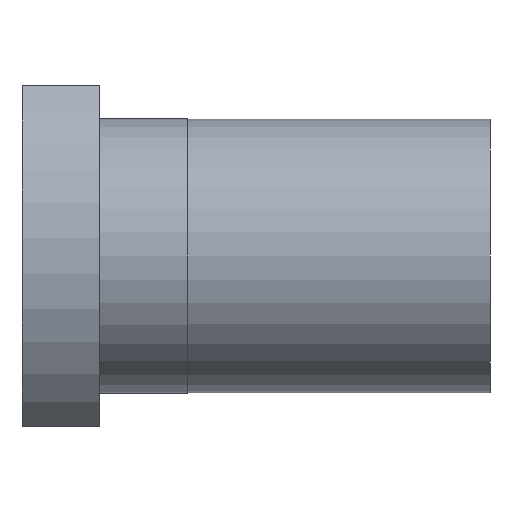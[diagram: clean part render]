
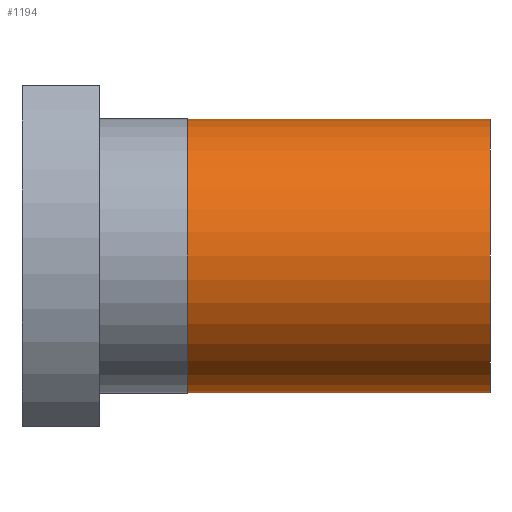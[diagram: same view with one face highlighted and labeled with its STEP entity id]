
A CAD part, front view. The second image highlights one B-rep face of the part: STEP entity #1194.
In plain terms, the highlighted cylindrical face has radius 24.875 mm (diameter 49.75 mm), a partial arc.
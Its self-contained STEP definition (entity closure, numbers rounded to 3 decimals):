
#451 = CARTESIAN_POINT ( 'NONE',  ( 30., 0., -24.875 ) ) ;
#476 = CIRCLE ( 'NONE', #477, 24.875 ) ;
#477 = AXIS2_PLACEMENT_3D ( 'NONE', #478, #479, #480 ) ;
#478 = CARTESIAN_POINT ( 'NONE',  ( 85., 0., 0. ) ) ;
#479 = DIRECTION ( 'NONE',  ( -1., 0., 0. ) ) ;
#480 = DIRECTION ( 'NONE',  ( 0., 0., 1. ) ) ;
#499 = FACE_OUTER_BOUND ( 'NONE', #1164, .T. ) ;
#500 = CYLINDRICAL_SURFACE ( 'NONE', #501, 24.875 ) ;
#501 = AXIS2_PLACEMENT_3D ( 'NONE', #502, #503, #504 ) ;
#502 = CARTESIAN_POINT ( 'NONE',  ( 0., 0., 0. ) ) ;
#503 = DIRECTION ( 'NONE',  ( -1., 0., 0. ) ) ;
#504 = DIRECTION ( 'NONE',  ( 0., 0., 1. ) ) ;
#539 = VERTEX_POINT ( 'NONE', #1511 ) ;
#579 = LINE ( 'NONE', #580, #581 ) ;
#580 = CARTESIAN_POINT ( 'NONE',  ( 0., 0., -24.875 ) ) ;
#581 = VECTOR ( 'NONE', #582, 1000. ) ;
#582 = DIRECTION ( 'NONE',  ( -1., 0., 0. ) ) ;
#612 = LINE ( 'NONE', #613, #614 ) ;
#613 = CARTESIAN_POINT ( 'NONE',  ( 0., 0., 24.875 ) ) ;
#614 = VECTOR ( 'NONE', #615, 1000. ) ;
#615 = DIRECTION ( 'NONE',  ( -1., 0., 0. ) ) ;
#671 = CIRCLE ( 'NONE', #672, 24.875 ) ;
#672 = AXIS2_PLACEMENT_3D ( 'NONE', #673, #674, #675 ) ;
#673 = CARTESIAN_POINT ( 'NONE',  ( 30., 0., 0. ) ) ;
#674 = DIRECTION ( 'NONE',  ( -1., 0., 0. ) ) ;
#675 = DIRECTION ( 'NONE',  ( 0., 0., 1. ) ) ;
#881 = VERTEX_POINT ( 'NONE', #451 ) ;
#904 = EDGE_CURVE ( 'NONE', #1040, #881, #579, .T. ) ;
#1040 = VERTEX_POINT ( 'NONE', #1505 ) ;
#1050 = ORIENTED_EDGE ( 'NONE', *, *, #1379, .F. ) ;
#1051 = ORIENTED_EDGE ( 'NONE', *, *, #1185, .T. ) ;
#1067 = VERTEX_POINT ( 'NONE', #1596 ) ;
#1100 = ORIENTED_EDGE ( 'NONE', *, *, #904, .F. ) ;
#1113 = ORIENTED_EDGE ( 'NONE', *, *, #1217, .T. ) ;
#1164 = EDGE_LOOP ( 'NONE', ( #1100, #1051, #1113, #1050 ) ) ;
#1185 = EDGE_CURVE ( 'NONE', #1040, #1067, #476, .T. ) ;
#1194 = ADVANCED_FACE ( 'NONE', ( #499 ), #500, .T. ) ;
#1217 = EDGE_CURVE ( 'NONE', #1067, #539, #612, .T. ) ;
#1379 = EDGE_CURVE ( 'NONE', #881, #539, #671, .T. ) ;
#1505 = CARTESIAN_POINT ( 'NONE',  ( 85., 0., -24.875 ) ) ;
#1511 = CARTESIAN_POINT ( 'NONE',  ( 30., 0., 24.875 ) ) ;
#1596 = CARTESIAN_POINT ( 'NONE',  ( 85., 0., 24.875 ) ) ;
